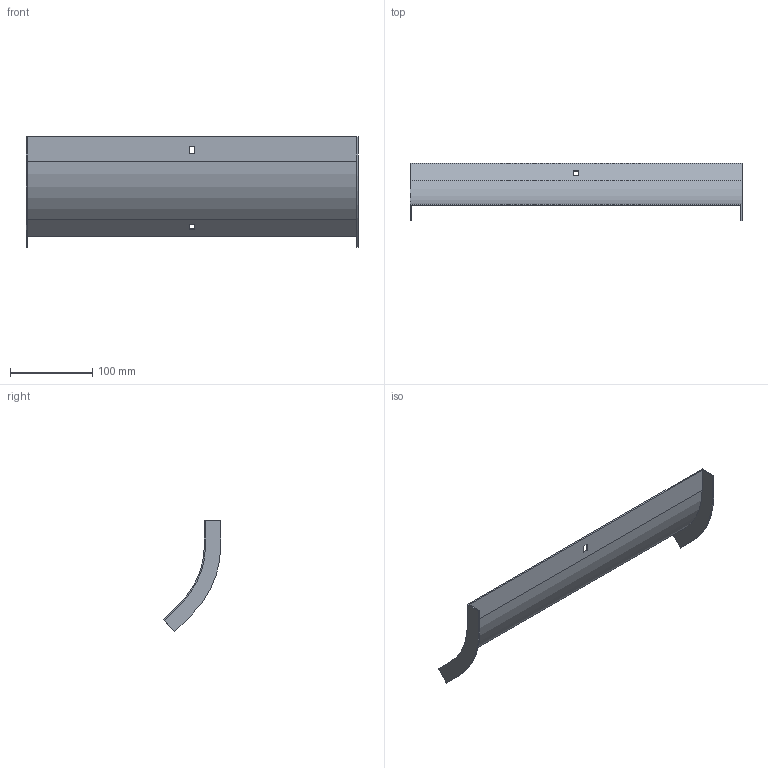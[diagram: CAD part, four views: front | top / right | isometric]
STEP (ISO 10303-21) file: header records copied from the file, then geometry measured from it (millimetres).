
FILE_DESCRIPTION (( 'STEP AP214' ), '1' );
FILE_NAME ('31G1P400.step', '2025-02-21T12:48:02', ( '' ), ( '' ), 'SwSTEP 2.0', 'SolidWorks 2023', '' );
FILE_SCHEMA (( 'AUTOMOTIVE_DESIGN' ));
Length unit declared in the file: millimetre
Products named in the file (1): 31G1P400
Bounding box: 404 x 70.06 x 135.01 mm (x, y, z)
Volume: 91514.8 mm3; surface area: 123893.2 mm2
Topology: 1 solids, 1 shells, 26 faces, 72 edges, 48 vertices
Faces by surface type: plane 22, cylinder 4
Entity records: 855 total; most frequent: CARTESIAN_POINT 147, ORIENTED_EDGE 144, DIRECTION 134, EDGE_CURVE 72, VECTOR 64, LINE 64, VERTEX_POINT 48, AXIS2_PLACEMENT_3D 35
